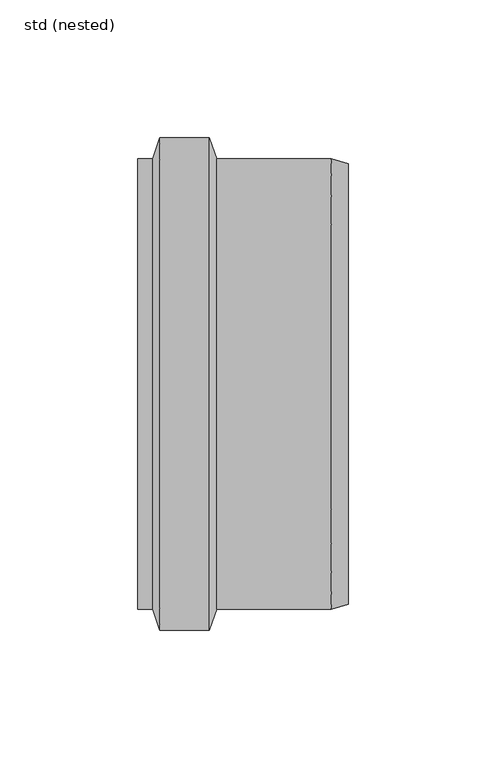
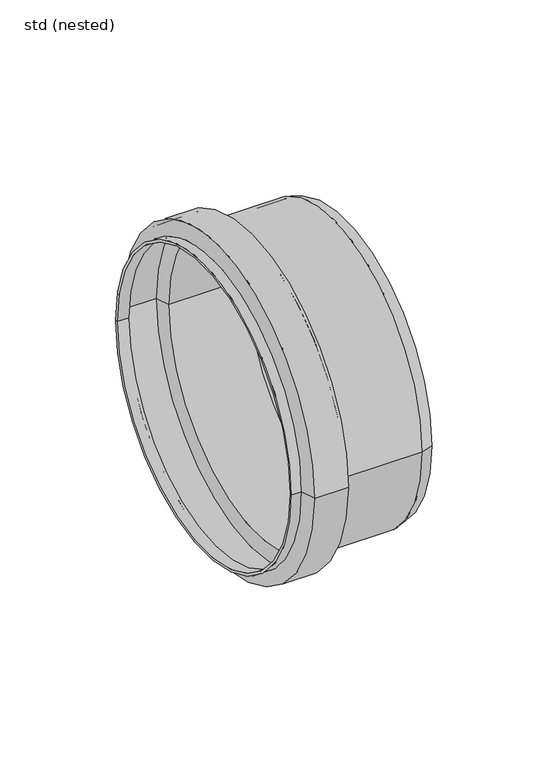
"""IFC4 building model written with IfcOpenShell, lengths in millimetres: pipe fitting geometry, ZZZ_do not use_PIF_ST_UN_ACO pipe socket_ACO : std (nested)."""

from ifc_helpers import new_model, si_unit, frame, origin, place, context, project, spatial, polyline, circle_curve, source, transform, mapped, element, save
from ifc_brep_helpers import plane_surface, cylinder_surface, revolved_surface, advanced_brep


def std_nested_70f44cd0(model_context):
    return source(origin(), model_context, "Body", "AdvancedBrep", [
        advanced_brep(
        [(-61.2, -87.7, 0.0), (-61.2, 87.7, 0.0), (-63.7, 80.5, 0.0), (-63.7, -80.5, 0.0), (-44.8, -87.7, 0.0), (-44.8, 87.7, 0.0), (-42.3, -80.5, 0.0), (-42.3, 80.5, 0.0), (0.0, -80.5, 0.0), (0.0, 80.5, 0.0), (6.0, -78.7, 0.0), (6.0, 78.7, 0.0), (6.3735523, -79.9451742, 0.0), (6.3735523, 79.9451742, 0.0), (0.1907995, -81.8, 0.0), (0.1907995, 81.8, 0.0), (-41.3752523, -81.8, 0.0), (-41.3752523, 81.8, 0.0), (-44.0079853, -89.3822712, 0.0), (-44.0079853, 89.3822712, 0.0), (-61.9920147, -89.3822712, 0.0), (-61.9920147, 89.3822712, 0.0), (-64.6247477, -81.8, 0.0), (-64.6247477, 81.8, 0.0), (-70.0, -81.8, 0.0), (-70.0, 81.8, 0.0), (-70.0, -80.5, 0.0), (-70.0, 80.5, 0.0)],
        [
            (0, 1, circle_curve(frame((-61.2, 0.0, 0.0), z_axis=(1.0, 0.0, 0.0), x_axis=(0.0, 1.0, 0.0)), 87.7)),
            (1, 2),
            (2, 3, circle_curve(frame((-63.7, 0.0, 0.0), z_axis=(-1.0, 0.0, 0.0), x_axis=(0.0, 1.0, 0.0)), 80.5)),
            (3, 0),
            (1, 0, circle_curve(frame((-61.2, 0.0, 0.0), z_axis=(1.0, 0.0, 0.0), x_axis=(0.0, 1.0, 0.0)), 87.7)),
            (3, 2, circle_curve(frame((-63.7, 0.0, 0.0), z_axis=(-1.0, 0.0, 0.0), x_axis=(0.0, 1.0, 0.0)), 80.5)),
            (4, 5, circle_curve(frame((-44.8, 0.0, 0.0), z_axis=(1.0, 0.0, 0.0), x_axis=(0.0, 1.0, 0.0)), 87.7)),
            (5, 1),
            (0, 4),
            (5, 4, circle_curve(frame((-44.8, 0.0, 0.0), z_axis=(1.0, 0.0, 0.0), x_axis=(0.0, 1.0, 0.0)), 87.7)),
            (6, 7, circle_curve(frame((-42.3, 0.0, 0.0), z_axis=(1.0, 0.0, 0.0), x_axis=(0.0, 1.0, 0.0)), 80.5)),
            (7, 5),
            (4, 6),
            (7, 6, circle_curve(frame((-42.3, 0.0, 0.0), z_axis=(1.0, 0.0, 0.0), x_axis=(0.0, 1.0, 0.0)), 80.5)),
            (8, 9, circle_curve(frame((0.0, 0.0, 0.0), z_axis=(1.0, 0.0, 0.0), x_axis=(0.0, 1.0, 0.0)), 80.5)),
            (9, 7),
            (6, 8),
            (9, 8, circle_curve(frame((0.0, 0.0, 0.0), z_axis=(1.0, 0.0, 0.0), x_axis=(0.0, 1.0, 0.0)), 80.5)),
            (10, 11, circle_curve(frame((6.0, 0.0, 0.0), z_axis=(1.0, 0.0, 0.0), x_axis=(0.0, 1.0, 0.0)), 78.7)),
            (11, 9),
            (8, 10),
            (11, 10, circle_curve(frame((6.0, 0.0, 0.0), z_axis=(1.0, 0.0, 0.0), x_axis=(0.0, 1.0, 0.0)), 78.7)),
            (12, 13, circle_curve(frame((6.3735523, 0.0, 0.0), z_axis=(1.0, 0.0, 0.0), x_axis=(0.0, 1.0, 0.0)), 79.9451742)),
            (13, 11),
            (10, 12),
            (13, 12, circle_curve(frame((6.3735523, 0.0, 0.0), z_axis=(1.0, 0.0, 0.0), x_axis=(0.0, 1.0, 0.0)), 79.9451742)),
            (14, 15, circle_curve(frame((0.1907995, 0.0, 0.0), z_axis=(1.0, 0.0, 0.0), x_axis=(0.0, 1.0, 0.0)), 81.8)),
            (15, 13),
            (12, 14),
            (15, 14, circle_curve(frame((0.1907995, 0.0, 0.0), z_axis=(1.0, 0.0, 0.0), x_axis=(0.0, 1.0, 0.0)), 81.8)),
            (16, 17, circle_curve(frame((-41.3752523, 0.0, 0.0), z_axis=(1.0, 0.0, 0.0), x_axis=(0.0, 1.0, 0.0)), 81.8)),
            (17, 15),
            (14, 16),
            (17, 16, circle_curve(frame((-41.3752523, 0.0, 0.0), z_axis=(1.0, 0.0, 0.0), x_axis=(0.0, 1.0, 0.0)), 81.8)),
            (18, 19, circle_curve(frame((-44.0079853, 0.0, 0.0), z_axis=(1.0, 0.0, 0.0), x_axis=(0.0, 1.0, 0.0)), 89.3822712)),
            (19, 17),
            (16, 18),
            (19, 18, circle_curve(frame((-44.0079853, 0.0, 0.0), z_axis=(1.0, 0.0, 0.0), x_axis=(0.0, 1.0, 0.0)), 89.3822712)),
            (20, 21, circle_curve(frame((-61.9920147, 0.0, 0.0), z_axis=(1.0, 0.0, 0.0), x_axis=(0.0, 1.0, 0.0)), 89.3822712)),
            (21, 19),
            (18, 20),
            (21, 20, circle_curve(frame((-61.9920147, 0.0, 0.0), z_axis=(1.0, 0.0, 0.0), x_axis=(0.0, 1.0, 0.0)), 89.3822712)),
            (22, 23, circle_curve(frame((-64.6247477, 0.0, 0.0), z_axis=(1.0, 0.0, 0.0), x_axis=(0.0, 1.0, 0.0)), 81.8)),
            (23, 21),
            (20, 22),
            (23, 22, circle_curve(frame((-64.6247477, 0.0, 0.0), z_axis=(1.0, 0.0, 0.0), x_axis=(0.0, 1.0, 0.0)), 81.8)),
            (24, 25, circle_curve(frame((-70.0, 0.0, 0.0), z_axis=(1.0, 0.0, 0.0), x_axis=(0.0, 1.0, 0.0)), 81.8)),
            (25, 23),
            (22, 24),
            (25, 24, circle_curve(frame((-70.0, 0.0, 0.0), z_axis=(1.0, 0.0, 0.0), x_axis=(0.0, 1.0, 0.0)), 81.8)),
            (26, 27, circle_curve(frame((-70.0, 0.0, 0.0), z_axis=(1.0, 0.0, 0.0), x_axis=(0.0, 1.0, 0.0)), 80.5)),
            (27, 25),
            (24, 26),
            (27, 26, circle_curve(frame((-70.0, 0.0, 0.0), z_axis=(1.0, 0.0, 0.0), x_axis=(0.0, 1.0, 0.0)), 80.5)),
            (2, 27),
            (26, 3),
        ],
        [
            revolved_surface(polyline([(-63.7, 80.5, 0.0), (-61.2, 87.7, 0.0)]), (-67.2050583, 0.0, 0.0), (-1.0, 0.0, 0.0)),
            revolved_surface(polyline([(-61.2, 87.7, 0.0), (-44.8, 87.7, 0.0)]), (-67.2050583, 0.0, 0.0), (-1.0, 0.0, 0.0)),
            revolved_surface(polyline([(-44.8, 87.7, 0.0), (-42.3, 80.5, 0.0)]), (-67.2050583, 0.0, 0.0), (-1.0, 0.0, 0.0)),
            revolved_surface(polyline([(-42.3, 80.5, 0.0), (0.0, 80.5, 0.0)]), (-67.2050583, 0.0, 0.0), (-1.0, 0.0, 0.0)),
            revolved_surface(polyline([(0.0, 80.5, 0.0), (6.0, 78.7, 0.0)]), (-67.2050583, 0.0, 0.0), (-1.0, 0.0, 0.0)),
            revolved_surface(polyline([(6.0, 78.7, 0.0), (6.3735523, 79.9451742, 0.0)]), (-67.2050583, 0.0, 0.0), (-1.0, 0.0, 0.0)),
            revolved_surface(polyline([(6.3735523, 79.9451742, 0.0), (0.1907995, 81.8, 0.0)]), (-67.2050583, 0.0, 0.0), (-1.0, 0.0, 0.0)),
            cylinder_surface(frame((-67.2050583, 0.0, 0.0), z_axis=(-1.0, 0.0, 0.0), x_axis=(0.0, 1.0, 0.0)), 81.8),
            revolved_surface(polyline([(-41.3752523, 81.8, 0.0), (-44.0079853, 89.3822712, 0.0)]), (-67.2050583, 0.0, 0.0), (-1.0, 0.0, 0.0)),
            cylinder_surface(frame((-67.2050583, 0.0, 0.0), z_axis=(-1.0, 0.0, 0.0), x_axis=(0.0, 1.0, 0.0)), 89.3822712),
            revolved_surface(polyline([(-61.9920147, 89.3822712, 0.0), (-64.6247477, 81.8, 0.0)]), (-67.2050583, 0.0, 0.0), (-1.0, 0.0, 0.0)),
            plane_surface(frame((-70.0, 0.0, 0.0), z_axis=(-1.0, 0.0, 0.0), x_axis=(0.0, 1.0, 0.0))),
            revolved_surface(polyline([(-70.0, 80.5, 0.0), (-63.7, 80.5, 0.0)]), (-67.2050583, 0.0, 0.0), (-1.0, 0.0, 0.0)),
        ],
        [
            (0, [[1, 2, 3, 4]]),
            (0, [[5, -4, 6, -2]]),
            (1, [[7, 8, -1, 9]]),
            (1, [[10, -9, -5, -8]]),
            (2, [[11, 12, -7, 13]]),
            (2, [[14, -13, -10, -12]]),
            (3, [[15, 16, -11, 17]]),
            (3, [[18, -17, -14, -16]]),
            (4, [[19, 20, -15, 21]]),
            (4, [[22, -21, -18, -20]]),
            (5, [[23, 24, -19, 25]]),
            (5, [[26, -25, -22, -24]]),
            (6, [[27, 28, -23, 29]]),
            (6, [[30, -29, -26, -28]]),
            (7, [[31, 32, -27, 33]]),
            (7, [[34, -33, -30, -32]]),
            (8, [[35, 36, -31, 37]]),
            (8, [[38, -37, -34, -36]]),
            (9, [[39, 40, -35, 41]]),
            (9, [[42, -41, -38, -40]]),
            (10, [[43, 44, -39, 45]]),
            (10, [[46, -45, -42, -44]]),
            (7, [[47, 48, -43, 49]]),
            (7, [[50, -49, -46, -48]]),
            (11, [[51, 52, -47, 53]]),
            (11, [[54, -53, -50, -52]]),
            (12, [[-3, 55, -51, 56]]),
            (12, [[-6, -56, -54, -55]]),
        ],
    ),
    ])


if __name__ == "__main__":
    model = new_model("IFC4")
    model_context = context("Model", 3, world=origin())
    ifc_project = project(units=[si_unit("LENGTHUNIT", "METRE", prefix="MILLI")], contexts=[model_context])
    site = spatial("IfcSite", under=ifc_project)
    building = spatial("IfcBuilding", under=site)
    placement = place(None, origin())
    std_nested_shape = std_nested_70f44cd0(model_context)
    element("IfcPipeFitting", 1, ObjectType="ZZZ_do not use_PIF_ST_UN_ACO pipe socket_ACO : std (nested)", at=placement, inside=building, context=model_context, shape_type="MappedRepresentation", body=[
        mapped(std_nested_shape, transform((0.0, 0.0, 0.0), x_axis=(1.0, 0.0, 0.0), y_axis=(0.0, 1.0, 0.0), z_axis=(0.0, 0.0, 1.0))),
    ])
    save(model, "model.ifc")
